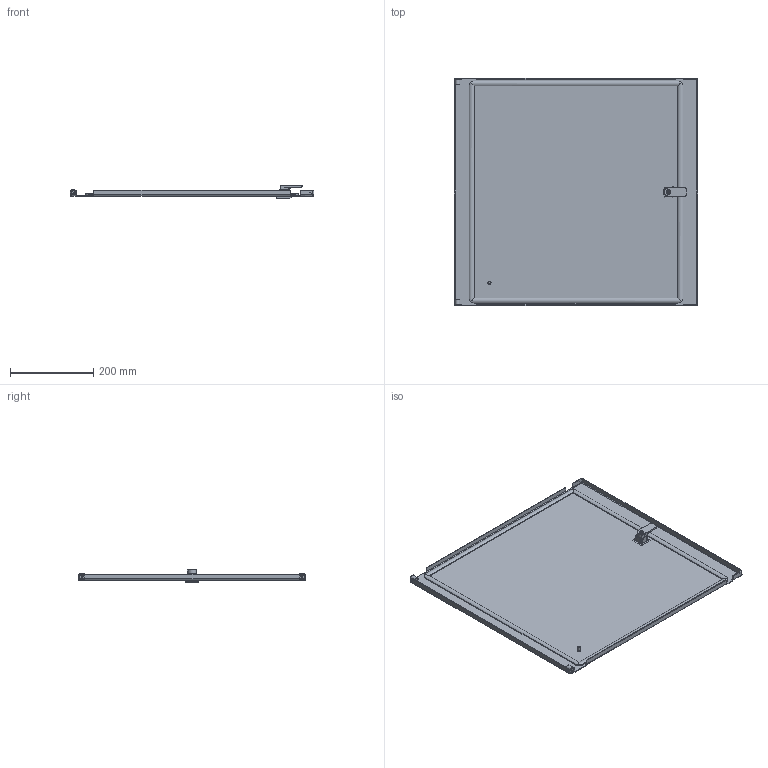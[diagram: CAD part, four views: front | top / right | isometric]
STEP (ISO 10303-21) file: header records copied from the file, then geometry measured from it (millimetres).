
FILE_DESCRIPTION(('STEP AP203'), '1');
FILE_NAME('Äâåðü ñåêöèîííàÿ 550õ600 ìì OptiBox M 419381 ÊÝÀÇ', '', ('UNSPECIFIED'), ('UNSPECIFIED'), 'C3D Converter', 'C3D Toolkit', '');
FILE_SCHEMA(('CONFIG_CONTROL_DESIGN'));
Length unit declared in the file: millimetre
Bounding box: 586.4 x 547 x 32.2 mm (x, y, z)
Volume: 799373.8 mm3; surface area: 764265.7 mm2
Topology: 6 solids, 6 shells, 355 faces, 928 edges, 588 vertices
Faces by surface type: plane 252, cylinder 92, bspline 8, cone 2, torus 1
Full cylindrical faces by diameter (mm): 0.75 x1, 1 x1, 3 x1, 5 x2, 6 x1, 7.5 x1, 9.3 x1, 10 x1, 20 x1
Entity records: 11864 total; most frequent: CARTESIAN_POINT 3095, ORIENTED_EDGE 1830, DIRECTION 1731, EDGE_CURVE 915, LINE 705, VECTOR 705, VERTEX_POINT 588, AXIS2_PLACEMENT_3D 513
